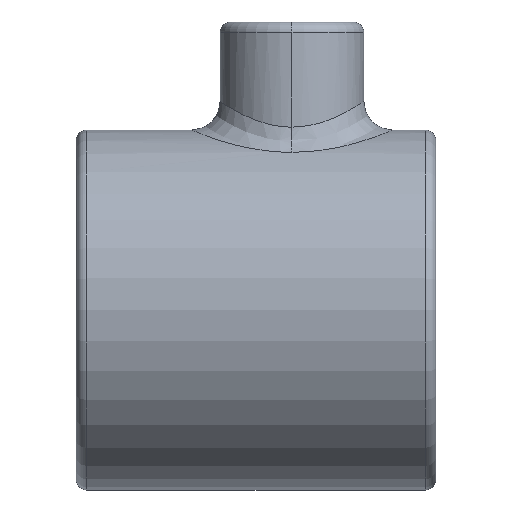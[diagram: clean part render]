
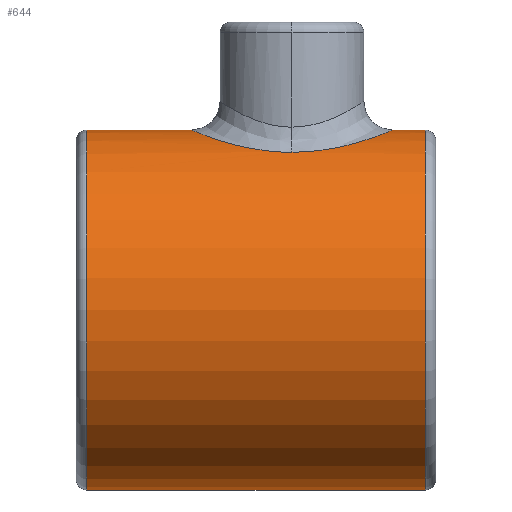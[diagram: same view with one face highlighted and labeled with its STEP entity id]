
A CAD part, top view. The second image highlights one B-rep face of the part: STEP entity #644.
In plain terms, the highlighted cylindrical face has radius 1270 mm (diameter 2540 mm), a partial arc.
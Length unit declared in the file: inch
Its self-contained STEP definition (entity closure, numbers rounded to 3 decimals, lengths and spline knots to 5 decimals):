
#37=CARTESIAN_POINT('',(32.,50.,0.));
#44=DIRECTION('',(1.,0.,0.));
#45=VECTOR('',#44,94.);
#46=CARTESIAN_POINT('',(3.,-50.,0.));
#47=LINE('',#46,#45);
#86=CARTESIAN_POINT('',(32.,50.,0.));
#87=CARTESIAN_POINT('',(32.00001,50.,0.8022));
#88=CARTESIAN_POINT('',(32.09435,49.96068,2.36739));
#89=CARTESIAN_POINT('',(32.45875,49.80986,4.53058));
#90=CARTESIAN_POINT('',(33.05647,49.56576,6.6938));
#91=CARTESIAN_POINT('',(33.88556,49.23414,8.80056));
#92=CARTESIAN_POINT('',(34.90565,48.83764,10.77573));
#93=CARTESIAN_POINT('',(36.05736,48.40531,12.57024));
#94=CARTESIAN_POINT('',(37.4223,47.91352,14.33477));
#95=CARTESIAN_POINT('',(39.16846,47.31872,16.1943));
#96=CARTESIAN_POINT('',(41.34329,46.63443,18.0714));
#97=CARTESIAN_POINT('',(44.05683,45.87171,19.92745));
#98=CARTESIAN_POINT('',(47.43806,45.07099,21.6726));
#99=CARTESIAN_POINT('',(51.51193,44.34309,23.11426));
#100=CARTESIAN_POINT('',(55.94663,43.87474,23.98141));
#101=CARTESIAN_POINT('',(58.6622,43.78769,24.13791));
#102=CARTESIAN_POINT('',(60.,43.78767,24.13793));
#104=CARTESIAN_POINT('',(60.,43.78767,24.13793));
#105=CARTESIAN_POINT('',(61.43718,43.78768,24.13791));
#106=CARTESIAN_POINT('',(64.2673,43.88952,23.95486));
#107=CARTESIAN_POINT('',(68.57784,44.3615,23.07811));
#108=CARTESIAN_POINT('',(72.3596,45.03507,21.74251));
#109=CARTESIAN_POINT('',(75.46998,45.75409,20.18919));
#110=CARTESIAN_POINT('',(78.03169,46.4522,18.52866));
#111=CARTESIAN_POINT('',(80.1563,47.10111,16.81042));
#112=CARTESIAN_POINT('',(81.87335,47.67,15.11924));
#113=CARTESIAN_POINT('',(83.29453,48.16913,13.44559));
#114=CARTESIAN_POINT('',(84.56775,48.63761,11.64759));
#115=CARTESIAN_POINT('',(85.70947,49.07508,9.64824));
#116=CARTESIAN_POINT('',(86.62456,49.43724,7.58042));
#117=CARTESIAN_POINT('',(87.33201,49.72384,5.41025));
#118=CARTESIAN_POINT('',(87.8453,49.93549,2.96786));
#119=CARTESIAN_POINT('',(87.99999,50.,1.03279));
#120=CARTESIAN_POINT('',(88.,50.,0.));
#122=DIRECTION('',(1.,0.,0.));
#123=VECTOR('',#122,9.);
#124=CARTESIAN_POINT('',(88.,50.,0.));
#125=LINE('',#124,#123);
#126=CARTESIAN_POINT('',(97.,0.,0.));
#127=DIRECTION('',(1.,0.,0.));
#128=DIRECTION('',(0.,1.,0.));
#129=AXIS2_PLACEMENT_3D('',#126,#127,#128);
#131=CARTESIAN_POINT('',(3.,0.,0.));
#132=DIRECTION('',(-1.,0.,0.));
#133=DIRECTION('',(0.,-1.,0.));
#134=AXIS2_PLACEMENT_3D('',#131,#132,#133);
#136=DIRECTION('',(1.,0.,0.));
#137=VECTOR('',#136,29.);
#138=CARTESIAN_POINT('',(3.,50.,0.));
#139=LINE('',#138,#137);
#287=CARTESIAN_POINT('',(97.,50.,0.));
#288=CARTESIAN_POINT('',(97.,-50.,0.));
#289=VERTEX_POINT('',#287);
#290=VERTEX_POINT('',#288);
#295=CARTESIAN_POINT('',(3.,-50.,0.));
#296=CARTESIAN_POINT('',(3.,50.,0.));
#297=VERTEX_POINT('',#295);
#298=VERTEX_POINT('',#296);
#300=VERTEX_POINT('',#37);
#303=VERTEX_POINT('',#102);
#305=VERTEX_POINT('',#120);
#628=CARTESIAN_POINT('',(0.,0.,0.));
#629=DIRECTION('',(1.,0.,0.));
#630=DIRECTION('',(0.,-1.,0.));
#631=AXIS2_PLACEMENT_3D('',#628,#629,#630);
#632=CYLINDRICAL_SURFACE('',#631,50.);
#634=ORIENTED_EDGE('',*,*,#633,.T.);
#635=ORIENTED_EDGE('',*,*,#618,.T.);
#636=ORIENTED_EDGE('',*,*,#361,.T.);
#638=ORIENTED_EDGE('',*,*,#637,.T.);
#639=ORIENTED_EDGE('',*,*,#357,.F.);
#640=ORIENTED_EDGE('',*,*,#327,.T.);
#641=ORIENTED_EDGE('',*,*,#354,.T.);
#642=EDGE_LOOP('',(#634,#635,#636,#638,#639,#640,#641));
#643=FACE_OUTER_BOUND('',#642,.F.);
#644=ADVANCED_FACE('',(#643),#632,.T.);
#103=B_SPLINE_CURVE_WITH_KNOTS('',3,(#86,#87,#88,#89,#90,#91,#92,#93,#94,#95,
#96,#97,#98,#99,#100,#101,#102),.UNSPECIFIED.,.F.,.F.,(4,1,1,1,1,1,1,1,1,1,1,1,
1,1,4),(0.,0.07143,0.14286,0.21429,
0.28571,0.35714,0.42857,0.5,0.57143,
0.64286,0.71429,0.78571,0.85714,
0.92857,1.),.UNSPECIFIED.);
#121=B_SPLINE_CURVE_WITH_KNOTS('',3,(#104,#105,#106,#107,#108,#109,#110,#111,
#112,#113,#114,#115,#116,#117,#118,#119,#120),.UNSPECIFIED.,.F.,.F.,(4,1,1,1,1,
1,1,1,1,1,1,1,1,1,4),(0.,0.07143,0.14286,
0.21429,0.28571,0.35714,0.42857,0.5,
0.57143,0.64286,0.71429,0.78571,
0.85714,0.92857,1.),.UNSPECIFIED.);
#130=CIRCLE('',#129,50.);
#135=CIRCLE('',#134,50.);
#327=EDGE_CURVE('',#297,#298,#135,.T.);
#354=EDGE_CURVE('',#298,#300,#139,.T.);
#357=EDGE_CURVE('',#297,#290,#47,.T.);
#361=EDGE_CURVE('',#305,#289,#125,.T.);
#618=EDGE_CURVE('',#303,#305,#121,.T.);
#633=EDGE_CURVE('',#300,#303,#103,.T.);
#637=EDGE_CURVE('',#289,#290,#130,.T.);
